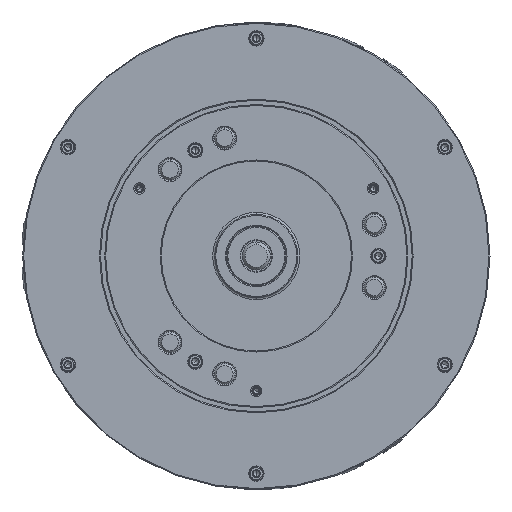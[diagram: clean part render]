
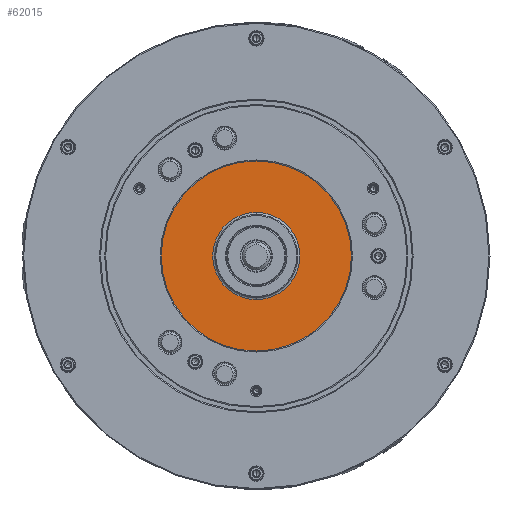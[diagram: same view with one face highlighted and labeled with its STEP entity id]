
A CAD part, left-side view. The second image highlights one B-rep face of the part: STEP entity #62015.
In plain terms, the highlighted planar face has unit normal (-1, 0, 0).
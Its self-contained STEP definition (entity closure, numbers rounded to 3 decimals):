
#37 = PLANE ( 'NONE',  #73109 ) ;
#5466 = EDGE_LOOP ( 'NONE', ( #139189, #7185 ) ) ;
#7185 = ORIENTED_EDGE ( 'NONE', *, *, #21497, .T. ) ;
#8388 = DIRECTION ( 'NONE',  ( -1., 0., 0. ) ) ;
#12313 = CIRCLE ( 'NONE', #110507, 91.54 ) ;
#12354 = VERTEX_POINT ( 'NONE', #94932 ) ;
#21497 = EDGE_CURVE ( 'NONE', #82527, #35078, #12313, .T. ) ;
#21705 = CIRCLE ( 'NONE', #28704, 42. ) ;
#23725 = CARTESIAN_POINT ( 'NONE',  ( -111.5, 0., -91.54 ) ) ;
#23795 = CARTESIAN_POINT ( 'NONE',  ( -111.5, 0., 0. ) ) ;
#26925 = CIRCLE ( 'NONE', #125195, 91.54 ) ;
#28704 = AXIS2_PLACEMENT_3D ( 'NONE', #72647, #74095, #71929 ) ;
#28946 = DIRECTION ( 'NONE',  ( 0., 0., 1. ) ) ;
#35078 = VERTEX_POINT ( 'NONE', #116900 ) ;
#39492 = EDGE_CURVE ( 'NONE', #35078, #82527, #26925, .T. ) ;
#44804 = FACE_OUTER_BOUND ( 'NONE', #5466, .T. ) ;
#45534 = DIRECTION ( 'NONE',  ( 1., 0., 0. ) ) ;
#45804 = DIRECTION ( 'NONE',  ( -1., 0., 0. ) ) ;
#49270 = EDGE_CURVE ( 'NONE', #124516, #12354, #74780, .T. ) ;
#55761 = EDGE_LOOP ( 'NONE', ( #56448, #134365 ) ) ;
#56448 = ORIENTED_EDGE ( 'NONE', *, *, #49270, .F. ) ;
#61679 = EDGE_CURVE ( 'NONE', #12354, #124516, #21705, .T. ) ;
#62015 = ADVANCED_FACE ( 'NONE', ( #92347, #44804 ), #37, .F. ) ;
#71929 = DIRECTION ( 'NONE',  ( 0., 0., 1. ) ) ;
#72647 = CARTESIAN_POINT ( 'NONE',  ( -111.5, 0., 0. ) ) ;
#73109 = AXIS2_PLACEMENT_3D ( 'NONE', #91620, #45534, #79901 ) ;
#74095 = DIRECTION ( 'NONE',  ( -1., 0., 0. ) ) ;
#74780 = CIRCLE ( 'NONE', #98136, 42. ) ;
#79901 = DIRECTION ( 'NONE',  ( 0., 0., -1. ) ) ;
#82527 = VERTEX_POINT ( 'NONE', #23725 ) ;
#82588 = CARTESIAN_POINT ( 'NONE',  ( -111.5, 0., 0. ) ) ;
#91620 = CARTESIAN_POINT ( 'NONE',  ( -111.5, 91.54, 0. ) ) ;
#92347 = FACE_BOUND ( 'NONE', #55761, .T. ) ;
#93605 = DIRECTION ( 'NONE',  ( -1., 0., 0. ) ) ;
#94932 = CARTESIAN_POINT ( 'NONE',  ( -111.5, 0., -42. ) ) ;
#96954 = CARTESIAN_POINT ( 'NONE',  ( -111.5, 0., 42. ) ) ;
#98136 = AXIS2_PLACEMENT_3D ( 'NONE', #23795, #45804, #113155 ) ;
#110507 = AXIS2_PLACEMENT_3D ( 'NONE', #140982, #8388, #28946 ) ;
#113155 = DIRECTION ( 'NONE',  ( 0., 0., 1. ) ) ;
#116278 = DIRECTION ( 'NONE',  ( 0., 0., 1. ) ) ;
#116900 = CARTESIAN_POINT ( 'NONE',  ( -111.5, 0., 91.54 ) ) ;
#124516 = VERTEX_POINT ( 'NONE', #96954 ) ;
#125195 = AXIS2_PLACEMENT_3D ( 'NONE', #82588, #93605, #116278 ) ;
#134365 = ORIENTED_EDGE ( 'NONE', *, *, #61679, .F. ) ;
#139189 = ORIENTED_EDGE ( 'NONE', *, *, #39492, .T. ) ;
#140982 = CARTESIAN_POINT ( 'NONE',  ( -111.5, 0., 0. ) ) ;
